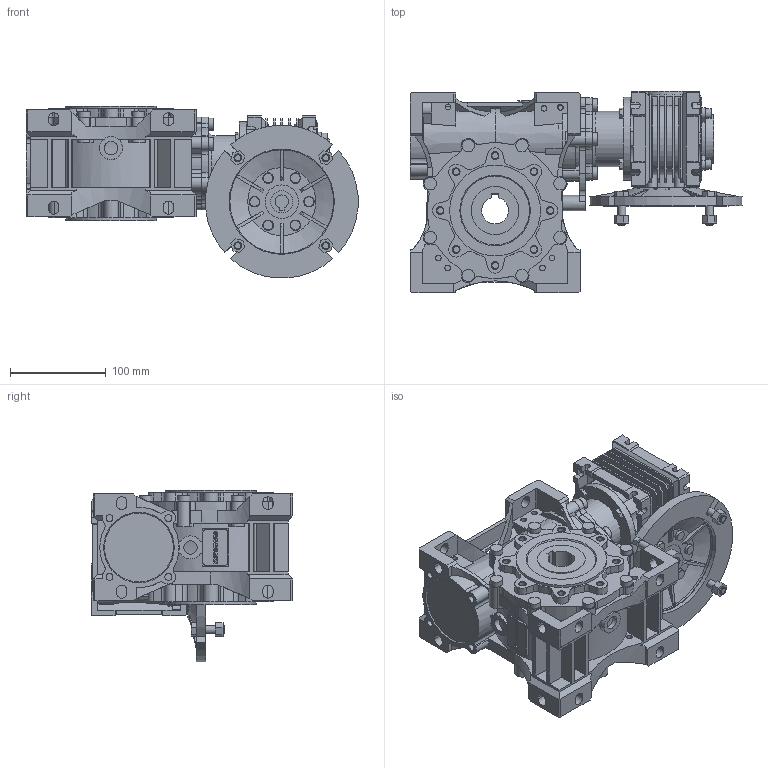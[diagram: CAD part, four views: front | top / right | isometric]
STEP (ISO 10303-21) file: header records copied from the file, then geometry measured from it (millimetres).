
FILE_DESCRIPTION(/* description */ ('STEP AP214'),/* implementation_level */ '2;1');
FILE_NAME(/* name */ 'NMRVP-NMRVP 040-075 100 (10x10) PS2 160x14 18 NO 28 NO NO - - NO - - - NO NO - --(--------)',/* time_stamp */ '2024-10-24T11:25:45+02:00',/* author */ ('License CC BY-ND 4.0'),/* organization */ ('CADENAS'),/* preprocessor_version */ 'ST-DEVELOPER v19.3',/* originating_system */ 'PARTsolutions',/* authorisation */ ' ');
FILE_SCHEMA (('AUTOMOTIVE_DESIGN {1 0 10303 214 3 1 1}'));
Products named in the file (11): NMRVP-NMRVP 040-075 100 (10x10) PS2 160x14 18 NO 28 NO NO - - NO - - 
- NO NO - --(--------); W.075.01.M; 075-28 (120); W.075.14.24.M-p; 040-075-TRA; W.040.01.M; 040-18 (78); VB 040-14 (14)-p; 4071 B5; Corona 40-p; 75-50
Assembly tree (10 placements, depth 2):
  NMRVP-NMRVP 040-075 100 (10x10) PS2 160x14 18 NO 28 NO NO - - NO - - 
- NO NO - --(--------)
    W.075.01.M
    075-28 (120)
    W.075.14.24.M-p
    040-075-TRA
    W.040.01.M
    040-18 (78)
    VB 040-14 (14)-p
    4071 B5
    Corona 40-p
    75-50
Bounding box: 347.24 x 211 x 179.74 mm (x, y, z)
Volume: 3648387.3 mm3; surface area: 593947.6 mm2
Topology: 10 solids, 16 shells, 2260 faces, 6100 edges, 4011 vertices
Faces by surface type: plane 1456, cylinder 708, cone 92, torus 4
Full cylindrical faces by diameter (mm): 4.917 x8, 5.55 x3, 6 x14, 6.647 x16, 7 x6, 7.26 x12, 8 x8, 10 x11, 10.8 x4, 11 x6, 13 x14, 14 x3, 16 x1, 23 x2, 24 x1, 28 x1, 29 x1, 30 x2, 31 x1, 35 x1, 36 x1, 40 x2, 42 x1, 47 x1, 48 x1, 50 x3, 58 x1, 60 x3, 67.5 x1, 68 x3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
Entity records: 86061 total; most frequent: CARTESIAN_POINT 13270, DIRECTION 11903, ORIENTED_EDGE 11762, EDGE_CURVE 5881, AXIS2_PLACEMENT_3D 4062, VERTEX_POINT 3982, LINE 3779, VECTOR 3779
